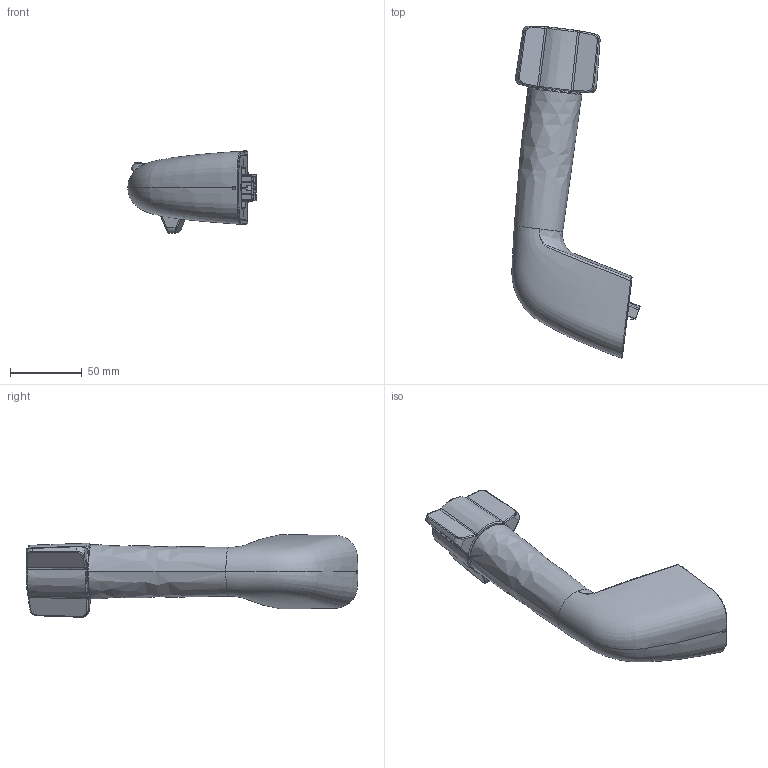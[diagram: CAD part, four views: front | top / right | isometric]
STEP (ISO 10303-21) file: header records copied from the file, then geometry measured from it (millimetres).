
FILE_DESCRIPTION (( 'STEP AP214' ), '1' );
FILE_NAME ('Ministro_FD.STEP', '2011-07-20T06:57:12', ( '' ), ( '' ), 'SwSTEP 2.0', 'SolidWorks 2011', '' );
FILE_SCHEMA (( 'AUTOMOTIVE_DESIGN' ));
Length unit declared in the file: millimetre
Products named in the file (1): Ministro_FD
Bounding box: 89.64 x 231.88 x 57.7 mm (x, y, z)
Volume: 346019.4 mm3; surface area: 53145.2 mm2
Topology: 2 solids, 7 shells, 692 faces, 1830 edges, 1185 vertices
Faces by surface type: plane 372, bspline 162, cylinder 69, cone 56, torus 31, sphere 2
Entity records: 46026 total; most frequent: CARTESIAN_POINT 29947, ORIENTED_EDGE 3660, DIRECTION 2757, EDGE_CURVE 1830, VERTEX_POINT 1185, LINE 1079, VECTOR 1079, AXIS2_PLACEMENT_3D 839
